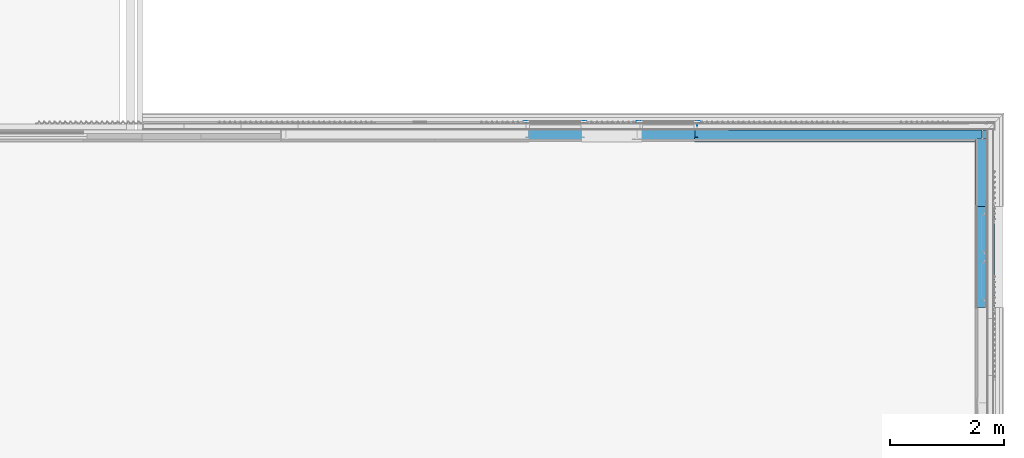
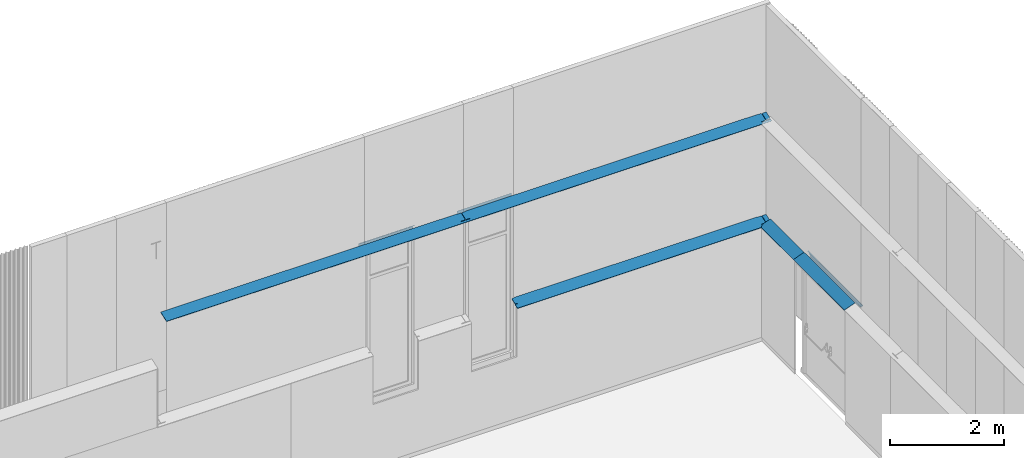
# One storey, part 41 of 338: 7 beams.
"""IFC2X3 building model written with IfcOpenShell, lengths in millimetres."""

import ifcopenshell
import ifcopenshell.guid

model = None  # the IFC model being written
_history = None  # IfcOwnerHistory: only IFC2X3 demands one
_inside = {}  # id of a spatial element -> (the spatial element, [elements in it])
_under = {}  # id of a project, library or spatial element -> (it, [spatial elements below it])
_declared = {}  # id of a project -> (the project, [libraries it declares])
_typed = {}  # id of a type object -> (the type object, [elements of that type])
_made_of = {}  # id of a material, layer set ... -> (it, [elements and type objects made of it])


def new_model(schema):
    """Start an empty IFC model of exactly this schema.

    Asked for "IFC4X3", IfcOpenShell would pick the latest addendum, in which some entities
    have other attributes; the version numbers below select the first issue.
    IFC2X3 requires an IfcOwnerHistory on every rooted entity: one is made here for all.
    """
    global model, _history
    if schema == "IFC4X3":
        model = ifcopenshell.file(schema_version=(4, 3, 0, 0))
    else:
        model = ifcopenshell.file(schema=schema)
    _inside.clear()
    _under.clear()
    _declared.clear()
    _typed.clear()
    _made_of.clear()
    _history = None
    if model.schema == "IFC2X3":
        org = make("IfcOrganization", Name="unknown")
        user = make(
            "IfcPersonAndOrganization",
            ThePerson=make("IfcPerson", FamilyName="unknown"),
            TheOrganization=org,
        )
        app = make(
            "IfcApplication",
            ApplicationDeveloper=org,
            Version="unknown",
            ApplicationFullName="unknown",
            ApplicationIdentifier="unknown",
        )
        _history = make(
            "IfcOwnerHistory",
            OwningUser=user,
            OwningApplication=app,
            ChangeAction="ADDED",
            CreationDate=0,
        )
    return model


def make(cls, **values):
    """One entity of the class cls with the attributes given. An attribute that is None is left unset."""
    return model.create_entity(
        cls, **{name: value for name, value in values.items() if value is not None}
    )


def entity(cls, *values):
    """Any entity or typed value of the class cls, its attributes in the order of the schema. None: left unset."""
    e = model.create_entity(cls)
    for i, value in enumerate(values):
        if value is not None:
            e[i] = value
    return e


def rooted(cls, **values):
    """An entity with a GlobalId (a new one), such as an element, a storey or a relation."""
    return make(cls, GlobalId=ifcopenshell.guid.new(), OwnerHistory=_history, **values)


def si_unit(unit_type, name, prefix=None):
    """IfcSIUnit, for example si_unit("LENGTHUNIT", "METRE", prefix="MILLI")."""
    return make("IfcSIUnit", UnitType=unit_type, Prefix=prefix, Name=name)


def converted_unit(unit_type, name, factor, base, dimensions=None, offset=None):
    """IfcConversionBasedUnit, such as the inch: factor (a typed value) times the base unit."""
    return make(
        "IfcConversionBasedUnit"
        if offset is None
        else "IfcConversionBasedUnitWithOffset",
        ConversionOffset=offset,
        Dimensions=None
        if dimensions is None
        else entity("IfcDimensionalExponents", *dimensions),
        UnitType=unit_type,
        Name=name,
        ConversionFactor=make(
            "IfcMeasureWithUnit", ValueComponent=factor, UnitComponent=base
        ),
    )


def derived_unit(unit_type, elements):
    """IfcDerivedUnit: a product of units, each with its exponent."""
    return make(
        "IfcDerivedUnit",
        Elements=[
            make("IfcDerivedUnitElement", Unit=unit, Exponent=power)
            for unit, power in elements
        ],
        UnitType=unit_type,
    )


def money_unit(currency):
    """IfcMonetaryUnit."""
    return make("IfcMonetaryUnit", Currency=currency)


def assignment(units):
    """IfcUnitAssignment: the units of a project."""
    return None if units is None else make("IfcUnitAssignment", Units=units)


def point(xyz):
    """IfcCartesianPoint."""
    return None if xyz is None else make("IfcCartesianPoint", Coordinates=xyz)


def direction(xyz):
    """IfcDirection."""
    return None if xyz is None else make("IfcDirection", DirectionRatios=xyz)


def frame(location, z_axis=None, x_axis=None):
    """IfcAxis2Placement3D, a coordinate frame: its origin and axes. An axis left out is left unset."""
    return make(
        "IfcAxis2Placement3D",
        Location=point(location),
        Axis=direction(z_axis),
        RefDirection=direction(x_axis),
    )


def origin_with_axes():
    """The frame at (0, 0, 0) with the z axis (0, 0, 1) and the x axis (1, 0, 0) written out."""
    return frame((0.0, 0.0, 0.0), z_axis=(0.0, 0.0, 1.0), x_axis=(1.0, 0.0, 0.0))


def place(relative_to, where):
    """IfcLocalPlacement: puts the frame where relative to a parent placement (None: the world)."""
    return make(
        "IfcLocalPlacement", PlacementRelTo=relative_to, RelativePlacement=where
    )


def context(
    kind, dimensions, precision=None, world=None, true_north=None, identifier=None
):
    """IfcGeometricRepresentationContext, for example the 3D "Model" context."""
    return make(
        "IfcGeometricRepresentationContext",
        ContextIdentifier=identifier,
        ContextType=kind,
        CoordinateSpaceDimension=dimensions,
        Precision=precision,
        WorldCoordinateSystem=world,
        TrueNorth=true_north,
    )


def subcontext(parent, identifier, kind, view, scale=None):
    """IfcGeometricRepresentationSubContext, for example "Body" below "Model"."""
    return make(
        "IfcGeometricRepresentationSubContext",
        ContextIdentifier=identifier,
        ContextType=kind,
        ParentContext=parent,
        TargetScale=scale,
        TargetView=view,
    )


def project(units=None, contexts=None):
    """IfcProject with its units and contexts."""
    return rooted(
        "IfcProject",
        Name="project",
        RepresentationContexts=contexts,
        UnitsInContext=assignment(units),
    )


def spatial(cls, under=None, at=None, **own):
    """A site, building, storey or space (cls), placed at a placement, below another one or the project."""
    s = rooted(cls, ObjectPlacement=at, **own)
    if under is not None:
        _under.setdefault(under.id(), (under, []))[1].append(s)
    return s


def faces_of(points, faces, orient=None, outer=None):
    """IfcFace entities. A face is a list of loops; a loop is a list of indices into points, from 0.

    orient and outer hold one flag for each loop. By default every Orientation is true, the
    first loop of a face is its IfcFaceOuterBound and the others are IfcFaceBound.
    """
    made = []
    for i, loops in enumerate(faces):
        bounds = []
        for j, loop in enumerate(loops):
            is_outer = j == 0 if outer is None else outer[i][j]
            bounds.append(
                make(
                    "IfcFaceOuterBound" if is_outer else "IfcFaceBound",
                    Bound=make("IfcPolyLoop", Polygon=[points[k] for k in loop]),
                    Orientation=True if orient is None else orient[i][j],
                )
            )
        made.append(make("IfcFace", Bounds=bounds))
    return made


def faceted_brep(points, faces, orient=None, outer=None, voids=None):
    """IfcFacetedBrep: a solid bounded by flat faces; with voids (closed shells), ...WithVoids."""
    shared = [point(p) for p in points]
    hull = make("IfcClosedShell", CfsFaces=faces_of(shared, faces, orient, outer))
    if voids is None:
        return make("IfcFacetedBrep", Outer=hull)
    return make(
        "IfcFacetedBrepWithVoids",
        Outer=hull,
        Voids=[
            make(cls, CfsFaces=faces_of(shared, fs, o, b)) for cls, fs, o, b in voids
        ],
    )


def shape(context_of_items, identifier, shape_type, items):
    """IfcShapeRepresentation: the items that make up one representation, for example the "Body"."""
    return make(
        "IfcShapeRepresentation",
        ContextOfItems=context_of_items,
        RepresentationIdentifier=identifier,
        RepresentationType=shape_type,
        Items=items,
    )


def material(Name=None, Category=None):
    """IfcMaterial."""
    return make("IfcMaterial", Name=Name, Category=Category)


def made_of(thing, what):
    """Note that an element or type object is made of a material, layer set ...; save() writes the relation."""
    if what is not None:
        _made_of.setdefault(what.id(), (what, []))[1].append(thing)
    return thing


def type_object(cls, material=None, **own):
    """A type object (cls), such as IfcWallType, which elements share."""
    return made_of(rooted(cls, **own), material)


def element(
    cls,
    number,
    at=None,
    inside=None,
    cuts=None,
    type_object=None,
    material=None,
    context=None,
    identifier="Body",
    shape_type=None,
    held_by="IfcProductDefinitionShape",
    body=None,
    shapes=None,
    **own,
):
    """One element of the class cls, such as IfcWall. Its Tag is "e" and its number.

    at: its placement. inside: the storey or other place that contains it. cuts: it is an
    opening in that element (IfcRelVoidsElement). A single representation is given by context,
    identifier, shape_type and body (its items); several are given by shapes. held_by: the class
    of the entity that holds the representations. save() writes the other relations.
    """
    e = rooted(cls, Tag="e%d" % number, ObjectPlacement=at, **own)
    if body is not None:
        shapes = [shape(context, identifier, shape_type, body)]
    if shapes is not None:
        e.Representation = make(held_by, Representations=shapes)
    if inside is not None:
        _inside.setdefault(inside.id(), (inside, []))[1].append(e)
    if cuts is not None:
        rooted(
            "IfcRelVoidsElement", RelatingBuildingElement=cuts, RelatedOpeningElement=e
        )
    if type_object is not None:
        _typed.setdefault(type_object.id(), (type_object, []))[1].append(e)
    return made_of(e, material)


def aggregate(whole, parts):
    """IfcRelAggregates: a whole, such as a stair, and the parts it consists of."""
    return rooted("IfcRelAggregates", RelatingObject=whole, RelatedObjects=parts)


def save(model, path):
    """Write the relations noted so far, then the file.

    IfcRelAggregates (storeys below a building ...), IfcRelContainedInSpatialStructure (elements
    in a storey), IfcRelDefinesByType, IfcRelAssociatesMaterial and IfcRelDeclares: one each for
    every whole, place, type object, material and project.
    """
    for whole, parts in _under.values():
        aggregate(whole, parts)
    for where, things in _inside.values():
        rooted(
            "IfcRelContainedInSpatialStructure",
            RelatedElements=things,
            RelatingStructure=where,
        )
    for kind, things in _typed.values():
        rooted("IfcRelDefinesByType", RelatedObjects=things, RelatingType=kind)
    for what, things in _made_of.values():
        rooted("IfcRelAssociatesMaterial", RelatedObjects=things, RelatingMaterial=what)
    for by, libraries in _declared.values():
        rooted("IfcRelDeclares", RelatingContext=by, RelatedDefinitions=libraries)
    model.write(path)


model = new_model("IFC2X3")

# Units and contexts
model_context = context("Model", 3, precision=0.01, world=origin_with_axes(), true_north=direction((0.0, 1.0)))
plan_context = context("Plan", 3, precision=0.01, world=origin_with_axes(), true_north=direction((0.0, 1.0)))
body_context = subcontext(model_context, "Body", "Model", "MODEL_VIEW")
ifc_project = project(units=[si_unit("LENGTHUNIT", "METRE", prefix="MILLI"), si_unit("AREAUNIT", "SQUARE_METRE"), si_unit("VOLUMEUNIT", "CUBIC_METRE"), converted_unit("PLANEANGLEUNIT", "DEGREE", entity("IfcPlaneAngleMeasure", 0.0174532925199), si_unit("PLANEANGLEUNIT", "RADIAN"), dimensions=[0, 0, 0, 0, 0, 0, 0]), money_unit("EUR"), converted_unit("TIMEUNIT", "Year", entity("IfcTimeMeasure", 31556926.0), si_unit("TIMEUNIT", "SECOND"), dimensions=[0, 0, 1, 0, 0, 0, 0]), si_unit("MASSUNIT", "GRAM", prefix="KILO"), si_unit("THERMODYNAMICTEMPERATUREUNIT", "DEGREE_CELSIUS"), si_unit("LUMINOUSINTENSITYUNIT", "LUMEN"), si_unit("ENERGYUNIT", "JOULE", prefix="MEGA"), derived_unit("THERMALCONDUCTANCEUNIT", [(si_unit("POWERUNIT", "WATT"), 1), (si_unit("LENGTHUNIT", "METRE"), -1), (si_unit("THERMODYNAMICTEMPERATUREUNIT", "KELVIN"), -1)]), derived_unit("SPECIFICHEATCAPACITYUNIT", [(si_unit("ENERGYUNIT", "JOULE"), 1), (si_unit("MASSUNIT", "GRAM", prefix="KILO"), -1), (si_unit("THERMODYNAMICTEMPERATUREUNIT", "KELVIN"), -1)]), derived_unit("MASSDENSITYUNIT", [(si_unit("MASSUNIT", "GRAM", prefix="KILO"), 1), (si_unit("VOLUMEUNIT", "CUBIC_METRE"), -1)])], contexts=[model_context, plan_context])

# Site, building, storey
site_placement = place(None, origin_with_axes())
site = spatial("IfcSite", under=ifc_project, at=site_placement, Name="Fortuinstraat Woensdrecht", CompositionType="ELEMENT")
building_placement = place(site_placement, origin_with_axes())
building = spatial("IfcBuilding", under=site, at=building_placement, Name="IKC Fortuna", CompositionType="ELEMENT")
storey_placement = place(building_placement, origin_with_axes())
storey = spatial("IfcBuildingStorey", under=building, at=storey_placement, Name="00 begane grond", CompositionType="ELEMENT", Elevation=0.0)

# Beams
ifc_material_1 = material(Name="Metaal - Aluminium")
beam_type_1 = type_object("IfcBeamType", Name="41 Zetwerk SW hd b 77 x 97", PredefinedType="BEAM")
beam_1_placement = place(storey_placement, frame((59519.4270571, 32380.3126656, 2387.0), z_axis=(0.0, 0.0, 1.0), x_axis=(1.0, 0.0, 0.0)))
element("IfcBeam", 1, at=beam_1_placement, inside=storey, type_object=beam_type_1, material=ifc_material_1, Name="28_Balk_UNP203", ObjectType="BEAM", context=body_context, shape_type="Brep", body=[
    faceted_brep([(34.0, 1844.0, 84.0), (34.0, 1769.0, 9.0), (13.0, 1769.0, 9.0), (13.0, 1770.0, 10.0), (33.0, 1770.0, 10.0), (33.0, 1843.16090037, 83.1609003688), (15.0, 1846.33478602, 86.3347860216), (15.0, 1847.35021263, 87.3502126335), (34.0, -84.0, 84.0), (34.0, -9.0, 9.0), (13.0, -9.0, 9.0), (13.0, -10.0, 10.0), (33.0, -10.0, 10.0), (33.0, -83.1609003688, 83.1609003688), (15.0, -86.3347860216, 86.3347860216), (15.0, -87.3502126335, 87.3502126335)], [[[0, 1, 2, 3, 4, 5, 6, 7]], [[0, 8, 9, 1]], [[1, 9, 10, 2]], [[2, 10, 11, 3]], [[12, 4, 3, 11]], [[4, 12, 13, 5]], [[5, 13, 14, 6]], [[6, 14, 15, 7]], [[7, 15, 8, 0]], [[13, 12, 11, 10, 9, 8, 15, 14]]]),
])
beam_type_2 = type_object("IfcBeamType", Name="41 Zetwerk SW 115 x 74", PredefinedType="BEAM")
beam_2_placement = place(storey_placement, frame((54383.4270571, 35582.2966282, 4540.00076674), z_axis=(0.0, 0.0, 1.0), x_axis=(0.0, 1.0, 0.0)))
element("IfcBeam", 2, at=beam_2_placement, inside=storey, type_object=beam_type_2, material=ifc_material_1, Name="28_Balk_UNP203", ObjectType="BEAM", context=body_context, shape_type="Brep", body=[
    faceted_brep([(55.0, 0.0, 26.0), (55.0, 1100.0, 26.0), (51.000000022, 1100.0, 26.0), (51.000000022, 0.0, 26.0), (55.0, 0.0, 114.0), (55.0, 1100.0, 114.0), (51.000000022, 1100.0, 114.0), (51.000000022, 1100.0, 115.0), (56.0, 1100.0, 115.0), (56.0, 1100.0, 25.0), (51.000000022, 1100.0, 25.0), (51.000000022, 0.0, 25.0), (56.0, 0.0, 25.0), (56.0, 0.0, 115.0), (51.000000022, 0.0, 115.0), (51.000000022, 0.0, 114.0)], [[[0, 1, 2, 3]], [[1, 0, 4, 5]], [[1, 5, 6, 7, 8, 9, 10, 2]], [[2, 10, 11, 3]], [[12, 13, 14, 15, 4, 0, 3, 11]], [[5, 4, 15, 6]], [[7, 6, 15, 14]], [[13, 8, 7, 14]], [[8, 13, 12, 9]], [[9, 12, 11, 10]]]),
    faceted_brep([(-8.99999997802, 44.9659219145, 25.0), (-8.99999997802, 45.0000000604, 25.0), (-8.99999997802, 45.0000000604, 26.0), (-8.99999997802, 44.9659219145, 26.0), (-17.0, 44.9540686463, 25.0), (-17.0, 45.0000000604, 25.0), (-18.0, 45.0000000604, 0.0), (-18.0, 45.0000000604, 26.0), (-17.0, 45.0000000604, 0.0), (-18.0, 44.9525869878, 26.0), (-18.0, 44.9525869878, 0.0), (-17.0, 44.9540686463, 0.0)], [[[0, 1, 2, 3]], [[4, 5, 1, 0]], [[6, 7, 2, 1, 5, 8]], [[3, 2, 7, 9]], [[10, 11, 4, 0, 3, 9]], [[11, 8, 5, 4]], [[9, 7, 6, 10]], [[10, 6, 8, 11]]]),
])
beam_type_3 = type_object("IfcBeamType", Name="41 Zetwerk SW b 151 x 74", PredefinedType="BEAM")
beam_3_placement = place(storey_placement, frame((52398.4270164, 35582.2966282, 4540.00076674), z_axis=(0.0, 0.0, 1.0), x_axis=(0.0, 1.0, 0.0)))
element("IfcBeam", 3, at=beam_3_placement, inside=storey, type_object=beam_type_3, material=ifc_material_1, Name="28_Balk_UNP203", ObjectType="BEAM", context=body_context, shape_type="Brep", body=[
    faceted_brep([(14.0, 1100.0, 135.027418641), (14.0004791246, 1064.76819361, 135.027418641), (14.0004791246, 1064.76819361, 151.390306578), (14.0, 1100.0, 151.390306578), (15.0, 1100.0, 135.027418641), (15.0, 1065.79627223, 135.027418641), (15.0, 1065.79627223, 151.390306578), (15.0, 1100.0, 151.390306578)], [[[0, 1, 2, 3]], [[4, 5, 1, 0]], [[5, 6, 2, 1]], [[3, 2, 6, 7]], [[3, 7, 4, 0]], [[7, 6, 5, 4]]]),
    faceted_brep([(55.0, 0.0, 26.0), (55.0, 1100.0, 26.0), (51.000000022, 1100.0, 26.0), (51.000000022, 0.0, 26.0), (55.0, 0.0, 114.160900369), (55.0, 1100.0, 114.160900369), (51.000000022, 1100.0, 114.866208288), (51.000000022, 1100.0, 115.8816349), (56.0, 1100.0, 115.0), (56.0, 1100.0, 25.0), (51.000000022, 1100.0, 25.0), (51.000000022, 0.0, 25.0), (56.0, 0.0, 25.0), (56.0, 0.0, 115.0), (51.000000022, 0.0, 115.8816349), (51.000000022, 0.0, 114.866208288)], [[[0, 1, 2, 3]], [[1, 0, 4, 5]], [[1, 5, 6, 7, 8, 9, 10, 2]], [[2, 10, 11, 3]], [[12, 13, 14, 15, 4, 0, 3, 11]], [[5, 4, 15, 6]], [[7, 6, 15, 14]], [[13, 8, 7, 14]], [[8, 13, 12, 9]], [[9, 12, 11, 10]]]),
    faceted_brep([(15.0, 399.740116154, 151.390306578), (15.0, 329.796272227, 151.390306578), (15.0, 329.796272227, 135.027418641), (15.0, 399.740114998, 135.027418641), (14.0004791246, 400.768193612, 151.390306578), (14.0004791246, 328.768193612, 151.390306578), (14.0004791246, 328.768193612, 135.027418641), (14.0004791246, 400.768193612, 135.027418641)], [[[0, 1, 2, 3]], [[4, 5, 1, 0]], [[2, 1, 5, 6]], [[3, 2, 6, 7]], [[7, 4, 0, 3]], [[7, 6, 5, 4]]]),
    faceted_brep([(15.0, 307.740116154, 151.390306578), (15.0, 237.796272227, 151.390306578), (15.0, 237.796272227, 135.027418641), (15.0, 307.740114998, 135.027418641), (14.0004791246, 308.768193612, 151.390306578), (14.0004791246, 236.768193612, 151.390306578), (14.0004791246, 236.768193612, 135.027418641), (14.0004791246, 308.768193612, 135.027418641)], [[[0, 1, 2, 3]], [[4, 5, 1, 0]], [[2, 1, 5, 6]], [[3, 2, 6, 7]], [[7, 4, 0, 3]], [[7, 6, 5, 4]]]),
    faceted_brep([(15.0, 215.740116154, 151.390306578), (15.0, 145.796272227, 151.390306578), (15.0, 145.796272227, 135.027418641), (15.0, 215.740114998, 135.027418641), (14.0004791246, 216.768193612, 151.390306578), (14.0004791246, 144.768193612, 151.390306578), (14.0004791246, 144.768193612, 135.027418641), (14.0004791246, 216.768193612, 135.027418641)], [[[0, 1, 2, 3]], [[4, 5, 1, 0]], [[2, 1, 5, 6]], [[3, 2, 6, 7]], [[7, 4, 0, 3]], [[7, 6, 5, 4]]]),
    faceted_brep([(15.0, 123.740116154, 151.390306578), (15.0, 53.7962722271, 151.390306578), (15.0, 53.7962722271, 135.027418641), (15.0, 123.740114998, 135.027418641), (14.0004791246, 124.768193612, 151.390306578), (14.0004791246, 52.7681936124, 151.390306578), (14.0004791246, 52.7681936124, 135.027418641), (14.0004791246, 124.768193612, 135.027418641)], [[[0, 1, 2, 3]], [[4, 5, 1, 0]], [[2, 1, 5, 6]], [[3, 2, 6, 7]], [[7, 4, 0, 3]], [[7, 6, 5, 4]]]),
    faceted_brep([(15.0, 0.0, 135.027418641), (15.0, 30.0186443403, 135.027418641), (15.0, 30.0186454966, 151.390306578), (15.0, 0.0, 151.390306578), (14.0, 0.0, 135.027418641), (14.0004791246, 31.0467229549, 135.027418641), (14.0004791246, 31.0467229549, 151.390306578), (14.0, 0.0, 151.390306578)], [[[0, 1, 2, 3]], [[4, 5, 1, 0]], [[5, 6, 2, 1]], [[3, 2, 6, 7]], [[3, 7, 4, 0]], [[7, 6, 5, 4]]]),
    faceted_brep([(15.0, 859.740114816, 151.390306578), (15.0, 789.796281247, 151.390306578), (15.0, 789.796267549, 135.027418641), (15.0000000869, 859.740114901, 135.027418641), (14.0004791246, 860.768193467, 151.390306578), (14.0004791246, 788.768188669, 151.390306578), (14.0004791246, 788.768188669, 135.027418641), (14.0004791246, 860.768193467, 135.027418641)], [[[0, 1, 2, 3]], [[4, 5, 1, 0]], [[2, 1, 5, 6]], [[3, 2, 6, 7]], [[7, 4, 0, 3]], [[7, 6, 5, 4]]]),
    faceted_brep([(15.0, 767.740122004, 151.390306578), (15.0, 697.796274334, 151.390306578), (15.0, 697.796274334, 135.027418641), (15.0, 767.740121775, 135.027418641), (14.0004791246, 768.768200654, 151.390306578), (14.0004791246, 696.768195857, 151.390306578), (14.0004791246, 696.768195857, 135.027418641), (14.0004791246, 768.768200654, 135.027418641)], [[[0, 1, 2, 3]], [[4, 5, 1, 0]], [[2, 1, 5, 6]], [[3, 2, 6, 7]], [[7, 4, 0, 3]], [[7, 6, 5, 4]]]),
    faceted_brep([(15.0, 675.740115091, 151.390306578), (15.0, 605.796281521, 151.390306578), (15.0, 605.796267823, 135.027418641), (15.0000000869, 675.740115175, 135.027418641), (14.0004791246, 676.768193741, 151.390306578), (14.0004791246, 604.768188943, 151.390306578), (14.0004791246, 604.768188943, 135.027418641), (14.0004791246, 676.768193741, 135.027418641)], [[[0, 1, 2, 3]], [[4, 5, 1, 0]], [[2, 1, 5, 6]], [[3, 2, 6, 7]], [[7, 4, 0, 3]], [[7, 6, 5, 4]]]),
    faceted_brep([(15.0, 583.740108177, 151.390306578), (15.0, 513.796274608, 151.390306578), (15.0, 513.796274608, 135.027418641), (15.0000000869, 583.740108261, 135.027418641), (14.0004791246, 584.768186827, 151.390306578), (14.0004791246, 512.768196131, 151.390306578), (14.0004791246, 512.768196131, 135.027418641), (14.0004791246, 584.768186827, 135.027418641)], [[[0, 1, 2, 3]], [[4, 5, 1, 0]], [[2, 1, 5, 6]], [[3, 2, 6, 7]], [[7, 4, 0, 3]], [[7, 6, 5, 4]]]),
    faceted_brep([(15.0, 421.796272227, 135.027418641), (15.000000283, 490.018650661, 135.027418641), (15.0, 490.018650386, 151.390306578), (15.0, 421.796272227, 151.390306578), (14.0004791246, 420.768193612, 135.027418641), (14.0004791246, 491.046729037, 135.027418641), (14.0004791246, 491.046729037, 151.390306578), (14.0004791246, 420.768193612, 151.390306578)], [[[0, 1, 2, 3]], [[4, 5, 1, 0]], [[5, 6, 2, 1]], [[3, 2, 6, 7]], [[0, 3, 7, 4]], [[7, 6, 5, 4]]]),
    faceted_brep([(15.0, 1043.74011615, 151.390306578), (15.0, 973.796272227, 151.390306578), (15.0, 973.796272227, 135.027418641), (15.0, 1043.740115, 135.027418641), (14.0004791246, 1044.76819361, 151.390306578), (14.0004791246, 972.768193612, 151.390306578), (14.0004791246, 972.768193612, 135.027418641), (14.0004791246, 1044.76819361, 135.027418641)], [[[0, 1, 2, 3]], [[4, 5, 1, 0]], [[2, 1, 5, 6]], [[3, 2, 6, 7]], [[7, 4, 0, 3]], [[7, 6, 5, 4]]]),
    faceted_brep([(15.0, 881.796274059, 135.027418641), (15.0, 950.01864434, 135.027418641), (15.0, 950.018645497, 151.390306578), (15.0, 881.796274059, 151.390306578), (14.0004791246, 880.768195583, 135.027418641), (14.0004791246, 951.046722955, 135.027418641), (14.0004791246, 951.046722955, 151.390306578), (14.0004791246, 880.768195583, 151.390306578)], [[[0, 1, 2, 3]], [[4, 5, 1, 0]], [[5, 6, 2, 1]], [[3, 2, 6, 7]], [[0, 3, 7, 4]], [[7, 6, 5, 4]]]),
])
ifc_material_2 = material(Name="Hout - Multiplex")
beam_type_4 = type_object("IfcBeamType", Name="Hout - Multiplex 233 x 12", PredefinedType="BEAM")
beam_4_placement = place(storey_placement, frame((59433.4308144, 35325.2966282, 2516.10771999), z_axis=(0.0, 0.0, 1.0), x_axis=(-1.0, 0.0, 0.0)))
element("IfcBeam", 4, at=beam_4_placement, inside=storey, type_object=beam_type_4, material=ifc_material_2, Name="28_Balk_UNP203", ObjectType="BEAM", context=body_context, shape_type="Brep", body=[
    faceted_brep([(0.0, 1175.0, 0.0), (218.501179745, 1175.0, -79.5279255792), (218.501179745, 47.5011797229, -79.5279255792), (187.519768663, 51.6054214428, -68.2516141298), (135.91434722, 0.0, -49.4687767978), (0.0, 0.0, 0.0), (4.10424171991, 1175.0, 11.2763114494), (222.605421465, 1175.0, -68.2516141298), (222.605421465, 51.6054214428, -68.2516141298), (171.000000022, 0.0, -49.4687767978), (4.10424171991, 0.0, 11.2763114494)], [[[0, 1, 2, 3, 4, 5]], [[1, 0, 6, 7]], [[1, 7, 8, 2]], [[2, 8, 3]], [[3, 8, 9, 4]], [[10, 5, 4, 9]], [[10, 6, 0, 5]], [[6, 10, 9, 8, 7]]]),
    faceted_brep([(218.501179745, 0.0, -79.5279255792), (171.000000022, 0.0, -62.2389100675), (218.501179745, 47.5011797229, -79.5279255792), (222.605421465, 0.0, -68.2516141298), (206.085652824, 0.0, -62.2389100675), (222.605421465, 16.5197686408, -68.2516141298)], [[[0, 1, 2]], [[3, 4, 1, 0]], [[5, 2, 1, 4]], [[0, 2, 5, 3]], [[3, 5, 4]]]),
])
beam_5_placement = place(storey_placement, frame((54293.4270571, 35496.2966283, 2516.10771999), z_axis=(0.0, 0.0, 1.0), x_axis=(0.0, -1.0, 0.0)))
element("IfcBeam", 5, at=beam_5_placement, inside=storey, type_object=beam_type_4, material=ifc_material_2, Name="28_Balk_UNP203", ObjectType="BEAM", context=body_context, shape_type="Brep", body=[
    faceted_brep([(213.000000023, 5140.0, -77.5256599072), (171.000000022, 5140.0, -62.2389100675), (171.000000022, 5140.0, -49.4687768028), (213.000000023, 5140.0, -64.7555266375), (161.500000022, 4960.0, -58.781192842), (171.000000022, 4960.0, -62.2389100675), (213.000000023, 5129.03214514, -77.5256599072), (218.501179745, 5129.19254019, -79.5279255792), (218.501179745, 5010.80745981, -79.5279255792), (213.000000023, 5010.96785486, -77.5256599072), (213.000000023, 5000.0, -77.5256599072), (218.501179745, 5000.0, -79.5279255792), (218.501179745, 0.0, -79.5279255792), (140.000000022, 0.0, -50.9558328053), (140.000000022, 60.0, -50.9558328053), (136.738312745, 60.0, -49.768675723), (133.346873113, 58.6739811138, -48.5342926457), (131.754278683, 55.3992548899, -47.9546356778), (128.61427221, 16.2014902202, -46.8117667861), (125.429083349, 9.65203777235, -45.6524528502), (118.646204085, 7.00000000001, -43.1836866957), (21.3537959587, 7.00000000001, -7.77214611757), (14.5709166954, 9.65203777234, -5.3033799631), (11.3857278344, 16.2014902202, -4.14406602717), (8.24572136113, 55.3992548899, -3.0011971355), (6.65312693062, 58.6739811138, -2.42154016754), (3.26168729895, 60.0, -1.1871570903), (2.19984030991e-08, 60.0, 0.0), (2.19912976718e-08, 4960.0, 0.0), (9.50000002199, 4960.0, -3.45771723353), (9.50000002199, 5032.0, -3.45771723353), (11.5096189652, 5039.5, -4.18915871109), (17.000000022, 5044.99038106, -6.18749399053), (24.500000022, 5047.0, -8.91727074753), (146.500000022, 5047.0, -53.321639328), (154.000000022, 5044.99038106, -56.051416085), (159.490381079, 5039.5, -58.0497513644), (161.500000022, 5032.0, -58.781192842), (171.000000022, 4960.0, -49.4687767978), (9.50000002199, 5032.0, 9.31241603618), (9.50000002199, 4960.0, 9.31241603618), (4.10424171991, 4960.0, 11.2763114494), (4.10424171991, 59.6705696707, 11.2763114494), (6.65312693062, 58.6739811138, 10.3485931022), (8.24572136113, 55.3992548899, 9.76893613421), (11.3857278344, 16.2014902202, 8.62606724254), (14.5709166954, 9.65203777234, 7.46675330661), (21.3537959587, 7.00000000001, 4.99798715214), (118.646204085, 7.00000000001, -30.413553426), (125.429083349, 9.65203777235, -32.8823195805), (128.61427221, 16.2014902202, -34.0416335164), (131.754278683, 55.3992548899, -35.1845024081), (133.346873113, 58.6739811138, -35.764159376), (136.738312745, 60.0, -36.9985424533), (140.000000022, 60.0, -38.1856995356), (140.000000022, 0.0, -38.1856995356), (222.605421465, 0.0, -68.2516141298), (222.605421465, 5000.0, -68.2516141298), (213.000000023, 5000.0, -64.7555266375), (213.000000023, 5017.1393486, -64.7555266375), (215.759102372, 5014.57091667, -65.7597577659), (222.605421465, 5013.35905458, -68.2516141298), (222.605421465, 5126.64094542, -68.2516141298), (215.759102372, 5125.42908333, -65.7597577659), (213.000000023, 5122.8606514, -64.7555266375), (161.500000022, 4960.0, -46.0110595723), (161.500000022, 5032.0, -46.0110595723), (159.490381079, 5039.5, -45.2796180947), (154.000000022, 5044.99038106, -43.2812828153), (146.500000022, 5047.0, -40.5515060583), (24.500000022, 5047.0, 3.85286252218), (17.000000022, 5044.99038106, 6.58263927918), (11.5096189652, 5039.5, 8.58097455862), (213.000000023, 5125.42908333, -65.7597577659), (213.000000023, 5128.61427219, -72.3092102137), (221.128577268, 5128.61427219, -72.3092102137), (221.128577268, 5011.38572781, -72.3092102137), (213.000000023, 5011.38572781, -72.3092102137), (213.000000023, 5014.57091667, -65.7597577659), (3.26168729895, 60.0, 8.96141220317)], [[[0, 1, 2, 3]], [[4, 5, 1, 0, 6, 7, 8, 9, 10, 11, 12, 13, 14, 15, 16, 17, 18, 19, 20, 21, 22, 23, 24, 25, 26, 27, 28, 29, 30, 31, 32, 33, 34, 35, 36, 37]], [[5, 38, 2, 1]], [[39, 40, 41, 42, 43, 44, 45, 46, 47, 48, 49, 50, 51, 52, 53, 54, 55, 56, 57, 58, 59, 60, 61, 62, 63, 64, 3, 2, 38, 65, 66, 67, 68, 69, 70, 71, 72]], [[6, 0, 3, 64, 73, 74]], [[4, 65, 38, 5]], [[7, 6, 74, 75]], [[7, 75, 62, 61, 76, 8]], [[76, 77, 9, 8]], [[78, 59, 58, 10, 9, 77]], [[57, 11, 10, 58]], [[57, 56, 12, 11]], [[12, 56, 55, 13]], [[14, 13, 55, 54]], [[15, 14, 54, 53]], [[16, 15, 53, 52]], [[17, 16, 52, 51]], [[18, 17, 51, 50]], [[19, 18, 50, 49]], [[20, 19, 49, 48]], [[21, 20, 48, 47]], [[22, 21, 47, 46]], [[23, 22, 46, 45]], [[24, 23, 45, 44]], [[25, 24, 44, 43]], [[25, 43, 42, 79, 26]], [[27, 26, 79]], [[42, 41, 28, 27, 79]], [[40, 29, 28, 41]], [[29, 40, 39, 30]], [[30, 39, 72, 31]], [[31, 72, 71, 32]], [[32, 71, 70, 33]], [[33, 70, 69, 34]], [[34, 69, 68, 35]], [[35, 68, 67, 36]], [[36, 67, 66, 37]], [[37, 66, 65, 4]], [[78, 60, 59]], [[77, 76, 61, 60, 78]], [[73, 63, 62, 75, 74]], [[73, 64, 63]]]),
    faceted_brep([(9.50000002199, 5140.0, 9.31241601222), (161.500000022, 5140.0, -46.0110595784), (161.500000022, 5140.0, -58.781192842), (9.50000002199, 5140.0, -3.45771723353), (159.490381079, 5060.5, -45.2796180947), (161.500000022, 5068.0, -46.0110595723), (9.50000002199, 5068.0, 9.31241603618), (11.5096189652, 5060.5, 8.58097455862), (17.000000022, 5055.00961894, 6.58263927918), (24.500000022, 5053.0, 3.85286252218), (146.500000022, 5053.0, -40.5515060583), (154.000000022, 5055.00961894, -43.2812828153), (161.500000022, 5068.0, -58.781192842), (11.5096189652, 5060.5, -4.18915871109), (9.50000002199, 5068.0, -3.45771723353), (159.490381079, 5060.5, -58.0497513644), (154.000000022, 5055.00961894, -56.051416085), (146.500000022, 5053.0, -53.321639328), (24.500000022, 5053.0, -8.91727074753), (17.000000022, 5055.00961894, -6.18749399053)], [[[0, 1, 2, 3]], [[4, 5, 1, 0, 6, 7, 8, 9, 10, 11]], [[12, 2, 1, 5]], [[13, 14, 3, 2, 12, 15, 16, 17, 18, 19]], [[14, 6, 0, 3]], [[12, 5, 4, 15]], [[13, 7, 6, 14]], [[19, 8, 7, 13]], [[18, 9, 8, 19]], [[17, 10, 9, 18]], [[16, 11, 10, 17]], [[15, 4, 11, 16]]]),
])
beam_6_placement = place(storey_placement, frame((59433.4308144, 34150.2966282, 2516.10771999), z_axis=(0.0, 0.0, 1.0), x_axis=(-1.0, 0.0, 0.0)))
element("IfcBeam", 6, at=beam_6_placement, inside=storey, type_object=beam_type_4, material=ifc_material_2, Name="28_Balk_UNP203", ObjectType="BEAM", context=body_context, shape_type="Brep", body=[
    faceted_brep([(218.501179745, 1779.98396264, -79.5279255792), (218.501179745, 0.0, -79.5279255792), (0.0, 0.0, 0.0), (0.0, 1779.98396264, 0.0), (222.605421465, 1779.98396264, -68.2516141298), (222.605421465, 0.0, -68.2516141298), (4.10424171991, 0.0, 11.2763114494), (4.10424171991, 1779.98396264, 11.2763114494)], [[[0, 1, 2, 3]], [[4, 5, 1, 0]], [[1, 5, 6, 2]], [[3, 2, 6, 7]], [[7, 4, 0, 3]], [[7, 6, 5, 4]]]),
])
beam_type_5 = type_object("IfcBeamType", Name="Hout - Multiplex 220 x 12", PredefinedType="BEAM")
beam_7_placement = place(storey_placement, frame((47223.4270571, 35496.2966283, 4701.0), z_axis=(0.0, 0.0, 1.0), x_axis=(0.0, -1.0, 0.0)))
element("IfcBeam", 7, at=beam_7_placement, inside=storey, type_object=beam_type_5, material=ifc_material_2, Name="28_Balk_UNP203", ObjectType="BEAM", context=body_context, shape_type="Brep", body=[
    faceted_brep([(11.5096189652, 6070.5, -4.18915871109), (9.50000002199, 6078.0, -3.45771723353), (9.500000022, 6150.0, -3.45771723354), (2.19984030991e-08, 6150.0, 0.0), (2.19984030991e-08, 12030.0, 0.0), (9.500000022, 12030.0, -3.45771723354), (9.500000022, 12102.0, -3.45771723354), (11.5096189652, 12109.5, -4.18915871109), (17.000000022, 12114.9903811, -6.18749399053), (24.500000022, 12117.0, -8.91727074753), (146.500000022, 12117.0, -53.321639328), (154.000000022, 12114.9903811, -56.051416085), (159.490381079, 12109.5, -58.0497513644), (161.500000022, 12102.0, -58.781192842), (161.500000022, 12030.0, -58.781192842), (171.000000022, 12030.0, -62.2389100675), (171.000000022, 12210.0, -62.2389100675), (181.333509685, 12209.9999999, -66.0000000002), (181.333509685, 12030.0, -66.0000000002), (206.732376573, 12030.0, -75.2444315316), (206.732376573, 0.0, -75.2444315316), (0.0, 0.0, 0.0), (2.19984030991e-08, 5970.0, 0.0), (9.500000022, 5970.0, -3.45771723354), (9.500000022, 6042.0, -3.45771723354), (11.5096189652, 6049.5, -4.18915871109), (17.000000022, 6054.99038106, -6.18749399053), (24.500000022, 6057.0, -8.91727074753), (146.500000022, 6057.0, -53.321639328), (154.000000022, 6054.99038106, -56.051416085), (159.490381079, 6049.5, -58.0497513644), (161.500000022, 6042.0, -58.781192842), (161.500000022, 5970.0, -58.781192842), (171.000000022, 5970.0, -62.2389100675), (171.000000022, 6150.0, -62.2389100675), (161.500000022, 6150.0, -58.781192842), (161.500000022, 6078.0, -58.781192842), (159.490381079, 6070.5, -58.0497513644), (154.000000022, 6065.00961894, -56.051416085), (146.500000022, 6063.0, -53.321639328), (24.500000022, 6063.0, -8.91727074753), (17.000000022, 6065.00961894, -6.18749399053), (11.5096189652, 6070.5, 8.58097455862), (9.50000002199, 6078.0, 9.31241603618), (9.500000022, 6150.0, 9.31241603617), (4.10424171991, 6150.0, 11.2763114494), (4.10424171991, 12030.0, 11.2763114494), (9.500000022, 12030.0, 9.31241603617), (9.500000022, 12102.0, 9.31241603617), (11.5096189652, 12109.5, 8.58097455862), (17.000000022, 12114.9903811, 6.58263927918), (24.500000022, 12117.0, 3.85286252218), (146.500000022, 12117.0, -40.5515060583), (154.000000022, 12114.9903811, -43.2812828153), (159.490381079, 12109.5, -45.2796180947), (161.500000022, 12102.0, -46.0110595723), (161.500000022, 12030.0, -46.0110595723), (171.000000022, 12030.0, -49.4687767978), (171.000000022, 12210.0, -49.4687767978), (210.097074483, 12209.9999999, -66.0000000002), (210.836618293, 12209.9999999, -63.9681200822), (210.097074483, 12030.0, -66.0000000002), (210.836618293, 0.0, -63.9681200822), (4.10424171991, 0.0, 11.2763114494), (4.10424171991, 5970.0, 11.2763114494), (9.500000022, 5970.0, 9.31241603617), (9.500000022, 6042.0, 9.31241603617), (11.5096189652, 6049.5, 8.58097455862), (17.000000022, 6054.99038106, 6.58263927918), (24.500000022, 6057.0, 3.85286252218), (146.500000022, 6057.0, -40.5515060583), (154.000000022, 6054.99038106, -43.2812828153), (159.490381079, 6049.5, -45.2796180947), (161.500000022, 6042.0, -46.0110595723), (161.500000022, 5970.0, -46.0110595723), (171.000000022, 5970.0, -49.4687767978), (171.000000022, 6150.0, -49.4687767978), (161.500000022, 6150.0, -46.0110595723), (161.500000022, 6078.0, -46.0110595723), (159.490381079, 6070.5, -45.2796180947), (154.000000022, 6065.00961894, -43.2812828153), (146.500000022, 6063.0, -40.5515060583), (24.500000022, 6063.0, 3.85286252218), (17.000000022, 6065.00961894, 6.58263927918)], [[[0, 1, 2, 3, 4, 5, 6, 7, 8, 9, 10, 11, 12, 13, 14, 15, 16, 17, 18, 19, 20, 21, 22, 23, 24, 25, 26, 27, 28, 29, 30, 31, 32, 33, 34, 35, 36, 37, 38, 39, 40, 41]], [[0, 42, 43, 1]], [[1, 43, 44, 2]], [[44, 45, 3, 2]], [[4, 3, 45, 46]], [[46, 47, 5, 4]], [[6, 5, 47, 48]], [[7, 6, 48, 49]], [[8, 7, 49, 50]], [[9, 8, 50, 51]], [[10, 9, 51, 52]], [[11, 10, 52, 53]], [[12, 11, 53, 54]], [[13, 12, 54, 55]], [[14, 13, 55, 56]], [[15, 14, 56, 57]], [[16, 15, 57, 58]], [[59, 17, 16, 58, 60]], [[18, 17, 59, 61]], [[19, 18, 61]], [[60, 62, 20, 19, 61, 59]], [[20, 62, 63, 21]], [[63, 64, 22, 21]], [[65, 23, 22, 64]], [[23, 65, 66, 24]], [[24, 66, 67, 25]], [[25, 67, 68, 26]], [[26, 68, 69, 27]], [[27, 69, 70, 28]], [[28, 70, 71, 29]], [[29, 71, 72, 30]], [[30, 72, 73, 31]], [[31, 73, 74, 32]], [[32, 74, 75, 33]], [[33, 75, 76, 34]], [[34, 76, 77, 35]], [[35, 77, 78, 36]], [[36, 78, 79, 37]], [[37, 79, 80, 38]], [[38, 80, 81, 39]], [[39, 81, 82, 40]], [[40, 82, 83, 41]], [[41, 83, 42, 0]], [[66, 65, 64, 63, 62, 60, 58, 57, 56, 55, 54, 53, 52, 51, 50, 49, 48, 47, 46, 45, 44, 43, 42, 83, 82, 81, 80, 79, 78, 77, 76, 75, 74, 73, 72, 71, 70, 69, 68, 67]]]),
    faceted_brep([(9.500000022, 12210.0, 9.31241603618), (161.500000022, 12210.0, -46.0110595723), (161.500000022, 12210.0, -58.781192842), (9.500000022, 12210.0, -3.45771723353), (159.490381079, 12130.5, -45.2796180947), (161.500000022, 12138.0, -46.0110595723), (9.50000002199, 12138.0, 9.31241603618), (11.5096189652, 12130.5, 8.58097455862), (17.000000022, 12125.0096189, 6.58263927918), (24.500000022, 12123.0, 3.85286252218), (146.500000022, 12123.0, -40.5515060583), (154.000000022, 12125.0096189, -43.2812828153), (161.500000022, 12138.0, -58.781192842), (11.5096189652, 12130.5, -4.18915871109), (9.50000002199, 12138.0, -3.45771723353), (159.490381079, 12130.5, -58.0497513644), (154.000000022, 12125.0096189, -56.051416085), (146.500000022, 12123.0, -53.321639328), (24.500000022, 12123.0, -8.91727074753), (17.000000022, 12125.0096189, -6.18749399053)], [[[0, 1, 2, 3]], [[4, 5, 1, 0, 6, 7, 8, 9, 10, 11]], [[12, 2, 1, 5]], [[13, 14, 3, 2, 12, 15, 16, 17, 18, 19]], [[14, 6, 0, 3]], [[12, 5, 4, 15]], [[13, 7, 6, 14]], [[19, 8, 7, 13]], [[18, 9, 8, 19]], [[17, 10, 9, 18]], [[16, 11, 10, 17]], [[15, 4, 11, 16]]]),
    faceted_brep([(206.732376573, 12050.4546021, -75.2444315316), (203.31332904, 12053.6373731, -74.0000000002), (203.31332904, 12186.362627, -74.0000000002), (206.732376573, 12189.5453979, -75.2444315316), (207.185312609, 12053.6373731, -74.0000000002), (207.185312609, 12186.362627, -74.0000000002)], [[[0, 1, 2, 3]], [[4, 1, 0]], [[5, 2, 1, 4]], [[2, 5, 3]], [[5, 4, 0, 3]]]),
])

save(model, "model.ifc")
